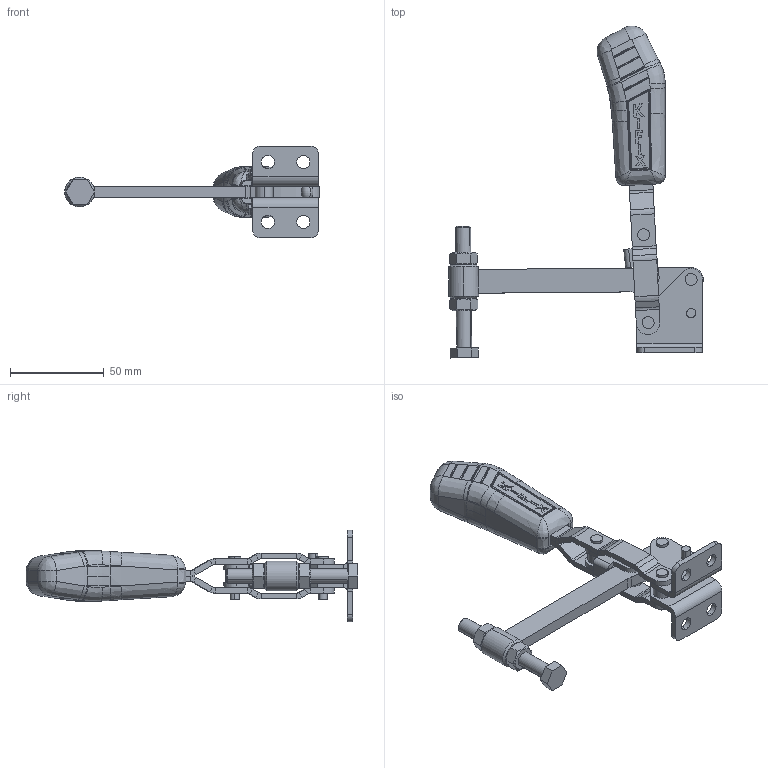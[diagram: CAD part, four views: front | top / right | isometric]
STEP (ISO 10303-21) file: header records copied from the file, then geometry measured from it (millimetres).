
FILE_DESCRIPTION (( 'STEP AP203' ), '1' );
FILE_NAME ('KF-017 DS.STEP', '2014-07-28T18:00:13', ( 'Ricardo' ), ( '' ), 'SwSTEP 2.0', 'SolidWorks 2013', '' );
FILE_SCHEMA (( 'CONFIG_CONTROL_DESIGN' ));
Length unit declared in the file: millimetre
Products named in the file (15): KF-017 DS; 06.50002; 04.20001; 07.60001; 02.12001_Direita; 03.15002; 02.12001_Esquerda; 20.20004; 06.50001; 12.50020; 05.20017; 11.50002; 01.10005; PSB-M8; 04.10001
Assembly tree (19 placements, depth 3):
  KF-017 DS
    02.12001_Direita
    02.12001_Esquerda
    06.50001  x2
    05.20017  x2
    01.10005  x2
    04.10001
    06.50002  x2
    04.20001
    07.60001
    03.15002
    PSB-M8
      20.20004
      12.50020
      11.50002  x2
Bounding box: 136.04 x 177.21 x 48.95 mm (x, y, z)
Volume: 86958.5 mm3; surface area: 43653.7 mm2
Topology: 18 solids, 18 shells, 684 faces, 1665 edges, 1032 vertices
Faces by surface type: plane 301, cylinder 206, bspline 126, cone 46, torus 5
Entity records: 22381 total; most frequent: CARTESIAN_POINT 8246, ORIENTED_EDGE 2846, DIRECTION 2169, EDGE_CURVE 1423, VERTEX_POINT 898, AXIS2_PLACEMENT_3D 775, EDGE_LOOP 641, VECTOR 619
